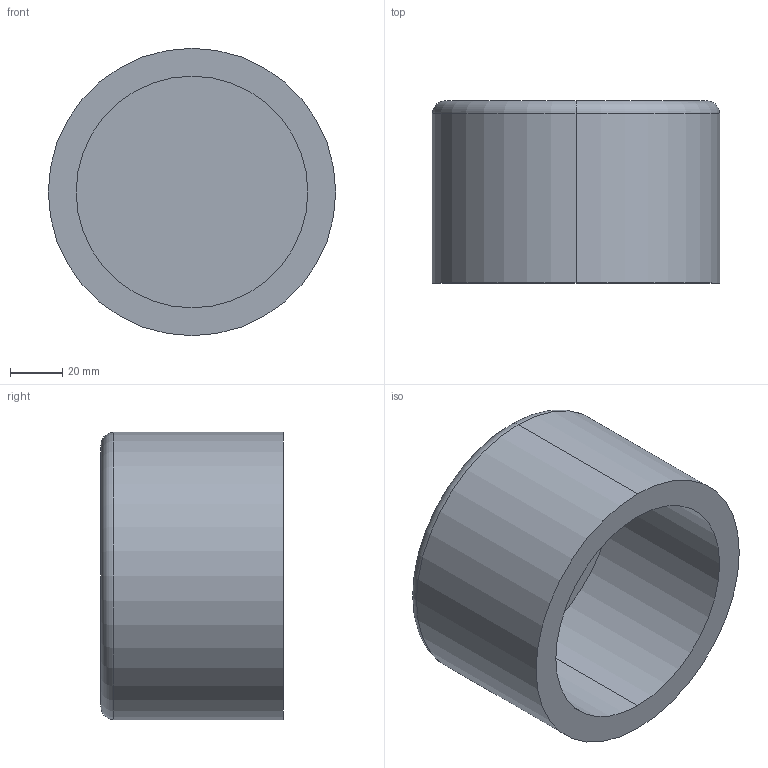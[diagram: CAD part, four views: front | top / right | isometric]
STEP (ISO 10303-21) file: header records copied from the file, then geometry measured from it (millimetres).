
FILE_DESCRIPTION (( 'STEP AP203' ), '1' );
FILE_NAME ('KP_10-110.step', '2011-08-08T11:41:57', ( '' ), ( '' ), 'SwSTEP 2.0', 'SolidWorks 2011', '' );
FILE_SCHEMA (( 'CONFIG_CONTROL_DESIGN' ));
Length unit declared in the file: millimetre
Products named in the file (1): KP_10-110
Bounding box: 110.4 x 70 x 110.4 mm (x, y, z)
Volume: 298098.2 mm3; surface area: 59304.2 mm2
Topology: 1 solids, 1 shells, 9 faces, 16 edges, 10 vertices
Faces by surface type: cylinder 4, plane 3, torus 2
Entity records: 303 total; most frequent: DIRECTION 48, CARTESIAN_POINT 36, ORIENTED_EDGE 32, AXIS2_PLACEMENT_3D 22, EDGE_CURVE 16, CIRCLE 12, VERTEX_POINT 10, EDGE_LOOP 10
